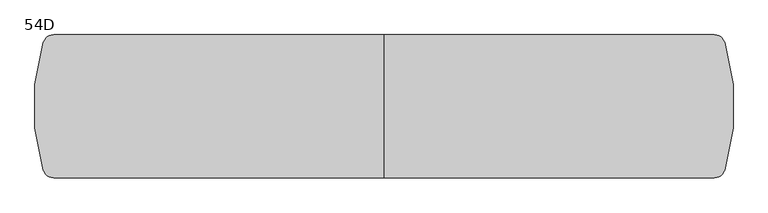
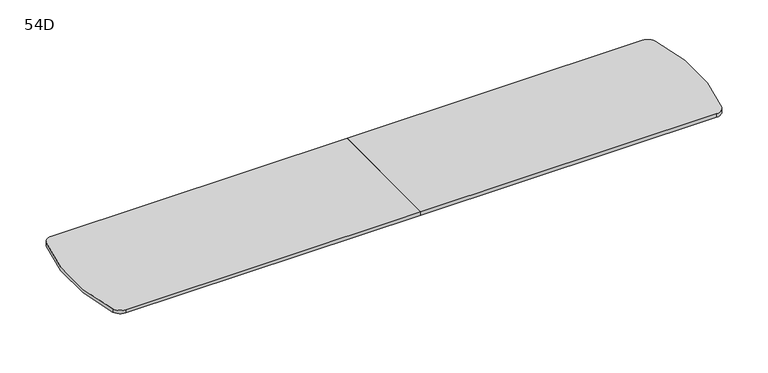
"""IFC4 building model written with IfcOpenShell, lengths in millimetres: furniture geometry, Coalesse_AM_Table_Conference_ETable2_SoftRadiused_22ft_FourBase : 54D."""

from ifc_helpers import new_model, si_unit, point, frame, frame_2d, origin, place, context, project, spatial, polyline, circle_curve, trimmed, segment, composite_curve, outline, extrude, source, transform, mapped, element, save


def furniture_54d_b636ba2b(model_context):
    return source(origin(), model_context, "Body", "SweptSolid", [
        extrude(outline(composite_curve([segment(polyline([(0.0, 91.2031434), (0.0, 685.8), (3163.6557965, 685.8)]), True, "CONTINUOUS"), segment(trimmed(circle_curve(frame_2d((3163.6557965, 584.2)), 101.6), [point((3163.6557965, 685.8))], [point((3259.4453259, 618.0662966))], False, "CARTESIAN"), True, "CONTINUOUS"), segment(polyline([(3259.4453259, 618.0662966), (3260.1956256, 615.9441026)]), True, "CONTINUOUS"), segment(trimmed(circle_curve(frame_2d((1258.0679193, 0.0)), 2094.7320807), [point((3260.1956256, 615.9441026))], [point((3260.1956256, -615.9441026))], False, "CARTESIAN"), True, "CONTINUOUS"), segment(polyline([(3260.1956256, -615.9441026), (3259.4453259, -618.0662966)]), True, "CONTINUOUS"), segment(trimmed(circle_curve(frame_2d((3163.6557965, -584.2)), 101.6), [point((3259.4453259, -618.0662966))], [point((3163.6557965, -685.8))], False, "CARTESIAN"), True, "CONTINUOUS"), segment(polyline([(3163.6557965, -685.8), (0.0, -685.8), (0.0, 91.2031434)]), True, "CONTINUOUS")], self_intersect=False)), frame((0.0, 0.0, 698.5), z_axis=(0.0, 0.0, 1.0), x_axis=(1.0, 0.0, 0.0)), (0.0, 0.0, 1.0), 38.1),
        extrude(outline(composite_curve([segment(polyline([(0.0, 24.2458581), (0.0, -685.8), (-3163.6557965, -685.8)]), True, "CONTINUOUS"), segment(trimmed(circle_curve(frame_2d((-3163.6557965, -584.2)), 101.6), [point((-3163.6557965, -685.8))], [point((-3259.4453259, -618.0662966))], False, "CARTESIAN"), True, "CONTINUOUS"), segment(polyline([(-3259.4453259, -618.0662966), (-3260.1956256, -615.9441026)]), True, "CONTINUOUS"), segment(trimmed(circle_curve(frame_2d((-1258.0679193, 0.0)), 2094.7320807), [point((-3260.1956256, -615.9441026))], [point((-3260.1956256, 615.9441026))], False, "CARTESIAN"), True, "CONTINUOUS"), segment(polyline([(-3260.1956256, 615.9441026), (-3259.4453259, 618.0662966)]), True, "CONTINUOUS"), segment(trimmed(circle_curve(frame_2d((-3163.6557965, 584.2)), 101.6), [point((-3259.4453259, 618.0662966))], [point((-3163.6557965, 685.8))], False, "CARTESIAN"), True, "CONTINUOUS"), segment(polyline([(-3163.6557965, 685.8), (0.0, 685.8), (0.0, 24.2458581)]), True, "CONTINUOUS")], self_intersect=False)), frame((0.0, 0.0, 698.5), z_axis=(0.0, 0.0, 1.0), x_axis=(1.0, 0.0, 0.0)), (0.0, 0.0, 1.0), 38.1),
        extrude(outline(polyline([(96.8375, 698.5), (103.1875, 698.5), (103.1875, 476.25), (-103.1875, 476.25), (-103.1875, 698.5), (-96.8375, 698.5), (-96.8375, 482.6), (96.8375, 482.6), (96.8375, 698.5)])), frame((-2724.15, 0.0, 0.0), z_axis=(1.0, 0.0, 0.0), x_axis=(0.0, 1.0, 0.0)), (0.0, 0.0, 1.0), 5448.3),
    ])


if __name__ == "__main__":
    model = new_model("IFC4")
    model_context = context("Model", 3, world=origin())
    ifc_project = project(units=[si_unit("LENGTHUNIT", "METRE", prefix="MILLI")], contexts=[model_context])
    site = spatial("IfcSite", under=ifc_project)
    building = spatial("IfcBuilding", under=site)
    placement = place(None, origin())
    furniture_54d_shape = furniture_54d_b636ba2b(model_context)
    element("IfcFurniture", 1, ObjectType="Coalesse_AM_Table_Conference_ETable2_SoftRadiused_22ft_FourBase : 54D", at=placement, inside=building, context=model_context, shape_type="MappedRepresentation", body=[
        mapped(furniture_54d_shape, transform((0.0, 0.0, 0.0), x_axis=(1.0, 0.0, 0.0), y_axis=(0.0, 1.0, 0.0), z_axis=(0.0, 0.0, 1.0))),
    ])
    save(model, "model.ifc")
